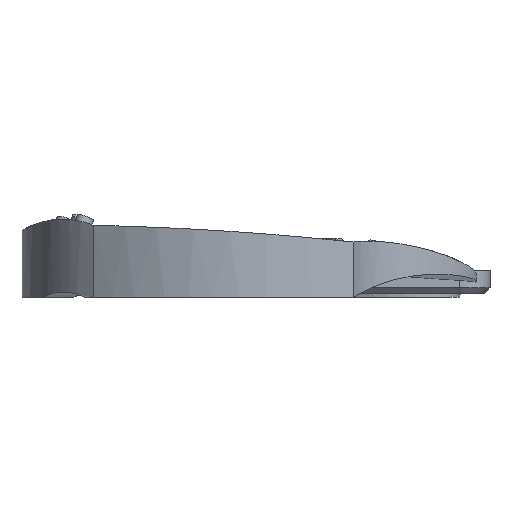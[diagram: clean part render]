
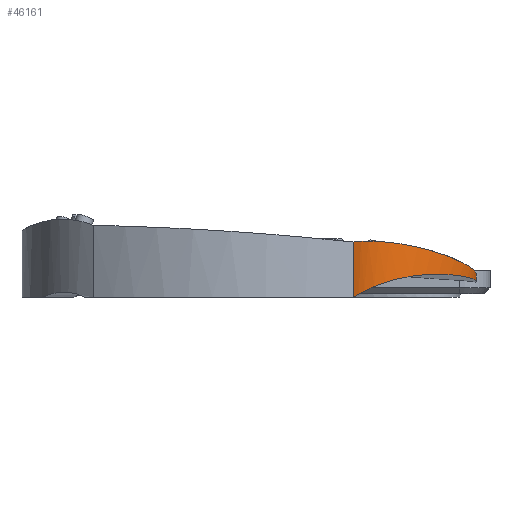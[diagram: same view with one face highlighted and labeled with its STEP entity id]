
A CAD part, left-side view. The second image highlights one B-rep face of the part: STEP entity #46161.
In plain terms, the highlighted free-form (B-spline) face has degree [1, 3] with [2, 4] control points.
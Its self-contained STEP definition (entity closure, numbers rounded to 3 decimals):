
#3153 = ( BOUNDED_SURFACE() B_SPLINE_SURFACE(1,3,(
    (#3154,#3155,#3156,#3157)
    ,(#3158,#3159,#3160,#3161
)),.UNSPECIFIED.,.F.,.F.,.F.) B_SPLINE_SURFACE_WITH_KNOTS((2,2),(4,4),(
    0.,1.),(0.,1.),.PIECEWISE_BEZIER_KNOTS.) 
GEOMETRIC_REPRESENTATION_ITEM() RATIONAL_B_SPLINE_SURFACE((
    (1.,1.,1.,1.)
,(1.,1.,1.,1.))) REPRESENTATION_ITEM('') SURFACE() );
#3154 = CARTESIAN_POINT('',(-34.202,-93.969,
    14.));
#3155 = CARTESIAN_POINT('',(-38.388,-61.085,
    13.23));
#3156 = CARTESIAN_POINT('',(-43.036,-42.29,
    22.023));
#3157 = CARTESIAN_POINT('',(-73.612,-42.5,22.));
#3158 = CARTESIAN_POINT('',(-42.41,-116.522,
    14.));
#3159 = CARTESIAN_POINT('',(-60.018,-121.237,
    19.029));
#3160 = CARTESIAN_POINT('',(-101.728,-82.919,
    35.214));
#3161 = CARTESIAN_POINT('',(-90.933,-52.5,32.));
#3255 = CYLINDRICAL_SURFACE('',#3256,16.);
#3256 = AXIS2_PLACEMENT_3D('',#3257,#3258,#3259);
#3257 = CARTESIAN_POINT('',(-29.5,-108.,5.));
#3258 = DIRECTION('',(0.,0.,-1.));
#3259 = DIRECTION('',(1.,0.,0.));
#17699 = VERTEX_POINT('',#17700);
#17700 = CARTESIAN_POINT('',(-42.958,-116.653,
    14.158));
#17760 = EDGE_CURVE('',#17699,#17761,#17763,.T.);
#17761 = VERTEX_POINT('',#17762);
#17762 = CARTESIAN_POINT('',(-90.933,-52.5,32.));
#17763 = SURFACE_CURVE('',#17764,(#17769,#17776),.PCURVE_S1.);
#17764 = ( BOUNDED_CURVE() B_SPLINE_CURVE(3,(#17765,#17766,#17767,#17768
),.UNSPECIFIED.,.F.,.F.) B_SPLINE_CURVE_WITH_KNOTS((4,4),(0.,1.),
.PIECEWISE_BEZIER_KNOTS.) CURVE() GEOMETRIC_REPRESENTATION_ITEM() 
RATIONAL_B_SPLINE_CURVE((1.,1.,1.,1.)) REPRESENTATION_ITEM('') );
#17765 = CARTESIAN_POINT('',(-42.41,-116.522,
    14.));
#17766 = CARTESIAN_POINT('',(-60.018,-121.237,
    19.029));
#17767 = CARTESIAN_POINT('',(-101.728,-82.919,
    35.214));
#17768 = CARTESIAN_POINT('',(-90.933,-52.5,32.));
#17769 = PCURVE('',#3153,#17770);
#17770 = DEFINITIONAL_REPRESENTATION('',(#17771),#17775);
#17771 = LINE('',#17772,#17773);
#17772 = CARTESIAN_POINT('',(1.,0.));
#17773 = VECTOR('',#17774,1.);
#17774 = DIRECTION('',(0.,1.));
#17775 = ( GEOMETRIC_REPRESENTATION_CONTEXT(2) 
PARAMETRIC_REPRESENTATION_CONTEXT() REPRESENTATION_CONTEXT('2D SPACE',''
  ) );
#17776 = PCURVE('',#17777,#17786);
#17777 = ( BOUNDED_SURFACE() B_SPLINE_SURFACE(1,3,(
    (#17778,#17779,#17780,#17781)
    ,(#17782,#17783,#17784,#17785
)),.UNSPECIFIED.,.F.,.F.,.F.) B_SPLINE_SURFACE_WITH_KNOTS((2,2),(4,4),(
    1.,2.),(0.,1.),.PIECEWISE_BEZIER_KNOTS.) 
GEOMETRIC_REPRESENTATION_ITEM() RATIONAL_B_SPLINE_SURFACE((
    (1.,1.,1.,1.)
,(1.,1.,1.,1.))) REPRESENTATION_ITEM('') SURFACE() );
#17778 = CARTESIAN_POINT('',(-42.41,-116.522,
    14.));
#17779 = CARTESIAN_POINT('',(-60.018,-121.237,
    19.029));
#17780 = CARTESIAN_POINT('',(-101.728,-82.919,
    35.214));
#17781 = CARTESIAN_POINT('',(-90.933,-52.5,32.));
#17782 = CARTESIAN_POINT('',(-42.41,-116.522,11.));
#17783 = CARTESIAN_POINT('',(-60.018,-121.237,
    13.099));
#17784 = CARTESIAN_POINT('',(-101.728,-82.919,
    22.577));
#17785 = CARTESIAN_POINT('',(-90.933,-52.5,3.));
#17786 = DEFINITIONAL_REPRESENTATION('',(#17787),#17791);
#17787 = LINE('',#17788,#17789);
#17788 = CARTESIAN_POINT('',(1.,0.));
#17789 = VECTOR('',#17790,1.);
#17790 = DIRECTION('',(0.,1.));
#17791 = ( GEOMETRIC_REPRESENTATION_CONTEXT(2) 
PARAMETRIC_REPRESENTATION_CONTEXT() REPRESENTATION_CONTEXT('2D SPACE',''
  ) );
#18584 = VERTEX_POINT('',#18585);
#18585 = CARTESIAN_POINT('',(-42.958,-116.653,
    11.067));
#18633 = ( BOUNDED_SURFACE() B_SPLINE_SURFACE(1,3,(
    (#18634,#18635,#18636,#18637)
    ,(#18638,#18639,#18640,#18641
)),.UNSPECIFIED.,.F.,.F.,.F.) B_SPLINE_SURFACE_WITH_KNOTS((2,2),(4,4),(
    2.,3.),(0.,1.),.PIECEWISE_BEZIER_KNOTS.) 
GEOMETRIC_REPRESENTATION_ITEM() RATIONAL_B_SPLINE_SURFACE((
    (1.,1.,1.,1.)
,(1.,1.,1.,1.))) REPRESENTATION_ITEM('') SURFACE() );
#18634 = CARTESIAN_POINT('',(-42.41,-116.522,11.));
#18635 = CARTESIAN_POINT('',(-60.018,-121.237,
    13.099));
#18636 = CARTESIAN_POINT('',(-101.728,-82.919,
    22.577));
#18637 = CARTESIAN_POINT('',(-90.933,-52.5,3.));
#18638 = CARTESIAN_POINT('',(-34.202,-93.969,11.));
#18639 = CARTESIAN_POINT('',(-38.388,-61.085,
    13.099));
#18640 = CARTESIAN_POINT('',(-43.036,-42.29,
    22.577));
#18641 = CARTESIAN_POINT('',(-73.612,-42.5,3.));
#18666 = EDGE_CURVE('',#18584,#17699,#18667,.T.);
#18667 = SURFACE_CURVE('',#18668,(#18674,#18683),.PCURVE_S1.);
#18668 = B_SPLINE_CURVE_WITH_KNOTS('',4,(#18669,#18670,#18671,#18672,
    #18673),.UNSPECIFIED.,.F.,.F.,(5,5),(0.,1.),
  .PIECEWISE_BEZIER_KNOTS.);
#18669 = CARTESIAN_POINT('',(-42.958,-116.653,
    11.067));
#18670 = CARTESIAN_POINT('',(-42.958,-116.653,
    11.839));
#18671 = CARTESIAN_POINT('',(-42.958,-116.653,
    12.612));
#18672 = CARTESIAN_POINT('',(-42.958,-116.653,
    13.385));
#18673 = CARTESIAN_POINT('',(-42.958,-116.653,
    14.158));
#18674 = PCURVE('',#3255,#18675);
#18675 = DEFINITIONAL_REPRESENTATION('',(#18676),#18682);
#18676 = B_SPLINE_CURVE_WITH_KNOTS('',4,(#18677,#18678,#18679,#18680,
    #18681),.UNSPECIFIED.,.F.,.F.,(5,5),(0.,1.),
  .PIECEWISE_BEZIER_KNOTS.);
#18677 = CARTESIAN_POINT('',(-3.713,-6.067));
#18678 = CARTESIAN_POINT('',(-3.713,-6.839));
#18679 = CARTESIAN_POINT('',(-3.713,-7.612));
#18680 = CARTESIAN_POINT('',(-3.713,-8.385));
#18681 = CARTESIAN_POINT('',(-3.713,-9.158));
#18682 = ( GEOMETRIC_REPRESENTATION_CONTEXT(2) 
PARAMETRIC_REPRESENTATION_CONTEXT() REPRESENTATION_CONTEXT('2D SPACE',''
  ) );
#18683 = PCURVE('',#17777,#18684);
#18684 = DEFINITIONAL_REPRESENTATION('',(#18685),#18691);
#18685 = B_SPLINE_CURVE_WITH_KNOTS('',4,(#18686,#18687,#18688,#18689,
    #18690),.UNSPECIFIED.,.F.,.F.,(5,5),(0.,1.),
  .PIECEWISE_BEZIER_KNOTS.);
#18686 = CARTESIAN_POINT('',(2.,0.01));
#18687 = CARTESIAN_POINT('',(1.75,0.01));
#18688 = CARTESIAN_POINT('',(1.5,0.01));
#18689 = CARTESIAN_POINT('',(1.25,0.01));
#18690 = CARTESIAN_POINT('',(1.,0.01));
#18691 = ( GEOMETRIC_REPRESENTATION_CONTEXT(2) 
PARAMETRIC_REPRESENTATION_CONTEXT() REPRESENTATION_CONTEXT('2D SPACE',''
  ) );
#22437 = B_SPLINE_SURFACE_WITH_KNOTS('',1,2,(
    (#22438,#22439,#22440)
    ,(#22441,#22442,#22443
    )),.UNSPECIFIED.,.F.,.F.,.F.,(2,2),(3,3),(3.,4.),(0.,1.),
  .PIECEWISE_BEZIER_KNOTS.);
#22438 = CARTESIAN_POINT('',(-90.933,-52.5,3.));
#22439 = CARTESIAN_POINT('',(-125.107,15.963,
    -1.082));
#22440 = CARTESIAN_POINT('',(-83.439,83.439,0.733));
#22441 = CARTESIAN_POINT('',(-90.933,-52.5,32.));
#22442 = CARTESIAN_POINT('',(-125.107,15.963,
    39.272));
#22443 = CARTESIAN_POINT('',(-83.439,83.439,
    40.733));
#46161 = ADVANCED_FACE('',(#46162),#17777,.F.);
#46162 = FACE_BOUND('',#46163,.F.);
#46163 = EDGE_LOOP('',(#46164,#46165,#46166,#46190));
#46164 = ORIENTED_EDGE('',*,*,#17760,.F.);
#46165 = ORIENTED_EDGE('',*,*,#18666,.F.);
#46166 = ORIENTED_EDGE('',*,*,#46167,.T.);
#46167 = EDGE_CURVE('',#18584,#46168,#46170,.T.);
#46168 = VERTEX_POINT('',#46169);
#46169 = CARTESIAN_POINT('',(-90.933,-52.5,3.));
#46170 = SURFACE_CURVE('',#46171,(#46176,#46183),.PCURVE_S1.);
#46171 = ( BOUNDED_CURVE() B_SPLINE_CURVE(3,(#46172,#46173,#46174,#46175
),.UNSPECIFIED.,.F.,.F.) B_SPLINE_CURVE_WITH_KNOTS((4,4),(0.,1.),
.PIECEWISE_BEZIER_KNOTS.) CURVE() GEOMETRIC_REPRESENTATION_ITEM() 
RATIONAL_B_SPLINE_CURVE((1.,1.,1.,1.)) REPRESENTATION_ITEM('') );
#46172 = CARTESIAN_POINT('',(-42.41,-116.522,11.));
#46173 = CARTESIAN_POINT('',(-60.018,-121.237,
    13.099));
#46174 = CARTESIAN_POINT('',(-101.728,-82.919,
    22.577));
#46175 = CARTESIAN_POINT('',(-90.933,-52.5,3.));
#46176 = PCURVE('',#17777,#46177);
#46177 = DEFINITIONAL_REPRESENTATION('',(#46178),#46182);
#46178 = LINE('',#46179,#46180);
#46179 = CARTESIAN_POINT('',(2.,0.));
#46180 = VECTOR('',#46181,1.);
#46181 = DIRECTION('',(0.,1.));
#46182 = ( GEOMETRIC_REPRESENTATION_CONTEXT(2) 
PARAMETRIC_REPRESENTATION_CONTEXT() REPRESENTATION_CONTEXT('2D SPACE',''
  ) );
#46183 = PCURVE('',#18633,#46184);
#46184 = DEFINITIONAL_REPRESENTATION('',(#46185),#46189);
#46185 = LINE('',#46186,#46187);
#46186 = CARTESIAN_POINT('',(2.,0.));
#46187 = VECTOR('',#46188,1.);
#46188 = DIRECTION('',(0.,1.));
#46189 = ( GEOMETRIC_REPRESENTATION_CONTEXT(2) 
PARAMETRIC_REPRESENTATION_CONTEXT() REPRESENTATION_CONTEXT('2D SPACE',''
  ) );
#46190 = ORIENTED_EDGE('',*,*,#46191,.F.);
#46191 = EDGE_CURVE('',#17761,#46168,#46192,.T.);
#46192 = SURFACE_CURVE('',#46193,(#46197,#46203),.PCURVE_S1.);
#46193 = LINE('',#46194,#46195);
#46194 = CARTESIAN_POINT('',(-90.933,-52.5,32.));
#46195 = VECTOR('',#46196,1.);
#46196 = DIRECTION('',(0.,0.,-1.));
#46197 = PCURVE('',#17777,#46198);
#46198 = DEFINITIONAL_REPRESENTATION('',(#46199),#46202);
#46199 = B_SPLINE_CURVE_WITH_KNOTS('',1,(#46200,#46201),.UNSPECIFIED.,
  .F.,.F.,(2,2),(0.,29.),.PIECEWISE_BEZIER_KNOTS.);
#46200 = CARTESIAN_POINT('',(1.,1.));
#46201 = CARTESIAN_POINT('',(2.,1.));
#46202 = ( GEOMETRIC_REPRESENTATION_CONTEXT(2) 
PARAMETRIC_REPRESENTATION_CONTEXT() REPRESENTATION_CONTEXT('2D SPACE',''
  ) );
#46203 = PCURVE('',#22437,#46204);
#46204 = DEFINITIONAL_REPRESENTATION('',(#46205),#46208);
#46205 = B_SPLINE_CURVE_WITH_KNOTS('',1,(#46206,#46207),.UNSPECIFIED.,
  .F.,.F.,(2,2),(0.,29.),.PIECEWISE_BEZIER_KNOTS.);
#46206 = CARTESIAN_POINT('',(4.,0.));
#46207 = CARTESIAN_POINT('',(3.,0.));
#46208 = ( GEOMETRIC_REPRESENTATION_CONTEXT(2) 
PARAMETRIC_REPRESENTATION_CONTEXT() REPRESENTATION_CONTEXT('2D SPACE',''
  ) );
